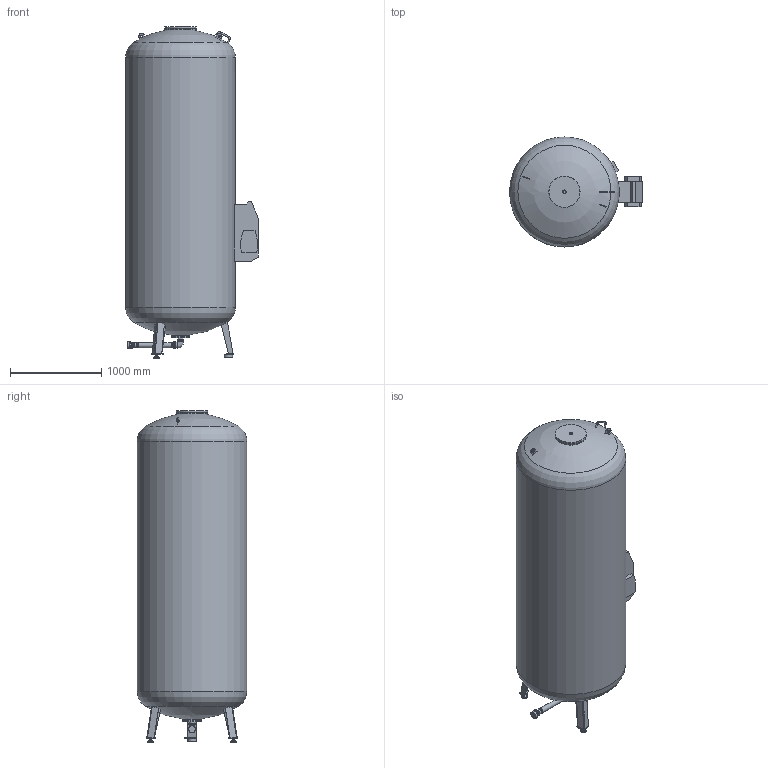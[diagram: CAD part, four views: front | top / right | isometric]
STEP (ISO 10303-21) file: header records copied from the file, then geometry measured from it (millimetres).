
FILE_DESCRIPTION(/* description */ (''),/* implementation_level */ '2;1');
FILE_NAME(/* name */ '\\DATASERVER\data\Flamco\3D-Modellen\Inventor\Flamcomat\2021_Flamcomat MK-U G4\flamcomat_mk-u_g4_3500_6.stp',/* time_stamp */ '2021-11-29T10:55:58+01:00',/* author */ ('kasius'),/* organization */ (''),/* preprocessor_version */ 'ST-DEVELOPER v17',/* originating_system */ 'Autodesk Inventor 2018',/* authorisation */ '');
FILE_SCHEMA (('AUTOMOTIVE_DESIGN { 1 0 10303 214 3 1 1 }'));
Length unit declared in the file: millimetre
Products named in the file (1): flamcomat_mk-u_g4_3500_6
Bounding box: 1453.04 x 1200 x 3630.5 mm (x, y, z)
Volume: 3598179661.6 mm3; surface area: 14773854.1 mm2
Topology: 5 solids, 5 shells, 289 faces, 767 edges, 521 vertices
Faces by surface type: plane 163, cone 63, cylinder 55, torus 4, bspline 2, sphere 2
Full cylindrical faces by diameter (mm): 16 x5, 20 x2, 24 x2, 33 x2, 38.75 x1, 47.67 x1, 52.97 x1, 53.97 x1, 56.07 x1, 57.97 x1, 58.97 x1, 59.97 x1, 60.3 x1, 65 x4, 68.51 x1, 71 x1, 75 x1, 90 x1, 162 x1, 198 x2, 306 x1, 342 x2, 1200 x1
Entity records: 9450 total; most frequent: CARTESIAN_POINT 1871, DIRECTION 1577, ORIENTED_EDGE 1534, EDGE_CURVE 767, AXIS2_PLACEMENT_3D 588, VERTEX_POINT 521, LINE 401, VECTOR 401
